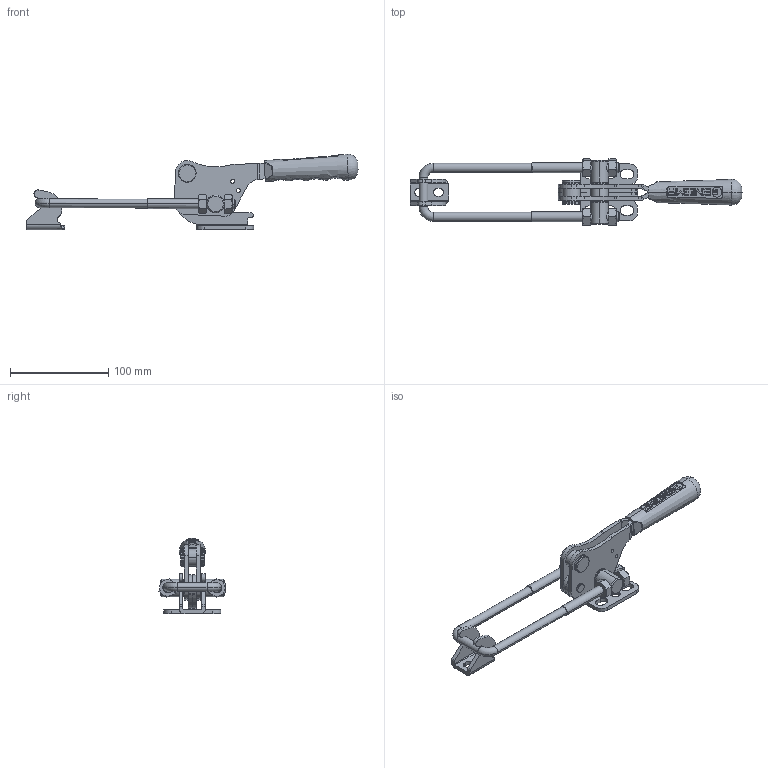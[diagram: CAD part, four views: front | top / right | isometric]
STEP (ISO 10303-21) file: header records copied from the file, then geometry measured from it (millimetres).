
FILE_DESCRIPTION (( 'STEP AP203' ), '1' );
FILE_NAME ('13110_Y.STEP', '2022-11-30T12:46:37', ( '' ), ( '' ), 'SwSTEP 2.0', 'SolidWorks 2023', '' );
FILE_SCHEMA (( 'CONFIG_CONTROL_DESIGN' ));
Length unit declared in the file: millimetre
Products named in the file (12): M8-M10_REV1_DefaultSM-FLAT-PATTERN_1; 13110_OTOMAT_2_Varsay_X2_0131_X0_lan_1; 13110_OTOMAT_Varsay_X2_0131_X0_lan_1; M10x90_U_KANCA_Varsay_X2_0131_X0_lan_1; 6x21_PER_X2_00c70130_X0_N_Varsay_X2_0131_X0_lan_1; 13110_H.KOLU_2022_Varsay_X2_0131_X0_lan_1; Mirror13110_H.KOLU_2022_Varsay_X2_0131_X0_lan_1; C95_Yeni_Tutamak_Varsay_X2_0131_X0_lan_1; 2022_13108_13110_Y_G_X2_00d6_X0_VDE_1; M10_S(SOMUN)_Varsay_X2_0131_X0_lan_1; 13110_Y; Mirror2022_13108_13110_Y_G_X2_00d6_X0_VDE_1
Assembly tree (14 placements, depth 2):
  13110_Y
    2022_13108_13110_Y_G_X2_00d6_X0_VDE_1
    13110_H.KOLU_2022_Varsay_X2_0131_X0_lan_1
    13110_OTOMAT_Varsay_X2_0131_X0_lan_1
    13110_OTOMAT_2_Varsay_X2_0131_X0_lan_1
    Mirror2022_13108_13110_Y_G_X2_00d6_X0_VDE_1
    Mirror13110_H.KOLU_2022_Varsay_X2_0131_X0_lan_1
    M10x90_U_KANCA_Varsay_X2_0131_X0_lan_1
    M8-M10_REV1_DefaultSM-FLAT-PATTERN_1
    C95_Yeni_Tutamak_Varsay_X2_0131_X0_lan_1
    6x21_PER_X2_00c70130_X0_N_Varsay_X2_0131_X0_lan_1
    M10_S(SOMUN)_Varsay_X2_0131_X0_lan_1  x4
Bounding box: 338.48 x 67.41 x 76.85 mm (x, y, z)
Volume: 155116.8 mm3; surface area: 78579.8 mm2
Topology: 14 solids, 14 shells, 619 faces, 1601 edges, 1033 vertices
Faces by surface type: plane 284, cylinder 201, cone 82, bspline 28, torus 22, sphere 2
Entity records: 31020 total; most frequent: CARTESIAN_POINT 16368, ORIENTED_EDGE 2782, DIRECTION 2762, EDGE_CURVE 1391, AXIS2_PLACEMENT_3D 974, VERTEX_POINT 898, VECTOR 814, LINE 814
